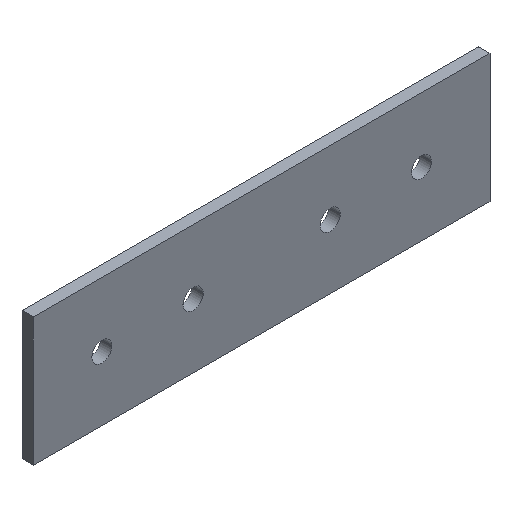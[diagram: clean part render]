
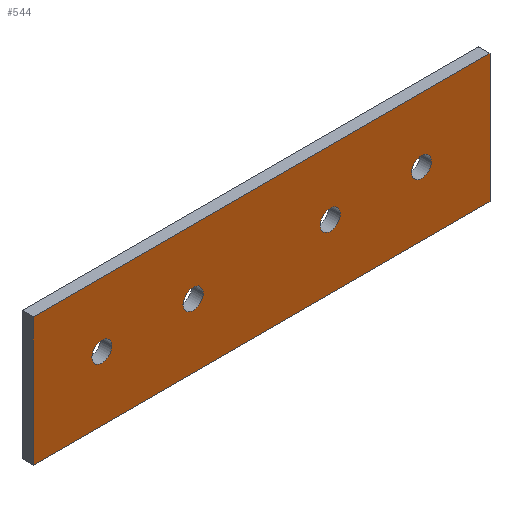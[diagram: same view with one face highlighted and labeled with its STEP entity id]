
A CAD part, isometric view. The second image highlights one B-rep face of the part: STEP entity #544.
In plain terms, the highlighted planar face has unit normal (0, -1, 0).
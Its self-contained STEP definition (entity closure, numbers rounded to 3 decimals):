
#297=DIRECTION('',(0.,0.,1.));
#298=VECTOR('',#297,22.5);
#299=CARTESIAN_POINT('',(-40.,0.,-11.25));
#300=LINE('',#299,#298);
#301=DIRECTION('',(1.,0.,0.));
#302=VECTOR('',#301,80.);
#303=CARTESIAN_POINT('',(-40.,0.,11.25));
#304=LINE('',#303,#302);
#305=DIRECTION('',(0.,0.,-1.));
#306=VECTOR('',#305,22.5);
#307=CARTESIAN_POINT('',(40.,0.,11.25));
#308=LINE('',#307,#306);
#309=DIRECTION('',(-1.,0.,0.));
#310=VECTOR('',#309,80.);
#311=CARTESIAN_POINT('',(40.,0.,-11.25));
#312=LINE('',#311,#310);
#313=CARTESIAN_POINT('',(12.,0.,0.));
#314=DIRECTION('',(0.,1.,0.));
#315=DIRECTION('',(1.,0.,0.));
#316=AXIS2_PLACEMENT_3D('',#313,#314,#315);
#318=CARTESIAN_POINT('',(12.,0.,0.));
#319=DIRECTION('',(0.,1.,0.));
#320=DIRECTION('',(-1.,0.,0.));
#321=AXIS2_PLACEMENT_3D('',#318,#319,#320);
#323=CARTESIAN_POINT('',(28.,0.,0.));
#324=DIRECTION('',(0.,1.,0.));
#325=DIRECTION('',(1.,0.,0.));
#326=AXIS2_PLACEMENT_3D('',#323,#324,#325);
#328=CARTESIAN_POINT('',(28.,0.,0.));
#329=DIRECTION('',(0.,1.,0.));
#330=DIRECTION('',(-1.,0.,0.));
#331=AXIS2_PLACEMENT_3D('',#328,#329,#330);
#333=CARTESIAN_POINT('',(-12.,0.,0.));
#334=DIRECTION('',(0.,1.,0.));
#335=DIRECTION('',(1.,0.,0.));
#336=AXIS2_PLACEMENT_3D('',#333,#334,#335);
#338=CARTESIAN_POINT('',(-12.,0.,0.));
#339=DIRECTION('',(0.,1.,0.));
#340=DIRECTION('',(-1.,0.,0.));
#341=AXIS2_PLACEMENT_3D('',#338,#339,#340);
#343=CARTESIAN_POINT('',(-28.,0.,0.));
#344=DIRECTION('',(0.,1.,0.));
#345=DIRECTION('',(1.,0.,0.));
#346=AXIS2_PLACEMENT_3D('',#343,#344,#345);
#348=CARTESIAN_POINT('',(-28.,0.,0.));
#349=DIRECTION('',(0.,1.,0.));
#350=DIRECTION('',(-1.,0.,0.));
#351=AXIS2_PLACEMENT_3D('',#348,#349,#350);
#457=CARTESIAN_POINT('',(-40.,0.,-11.25));
#458=CARTESIAN_POINT('',(-40.,0.,11.25));
#459=VERTEX_POINT('',#457);
#460=VERTEX_POINT('',#458);
#461=CARTESIAN_POINT('',(40.,0.,11.25));
#462=VERTEX_POINT('',#461);
#463=CARTESIAN_POINT('',(40.,0.,-11.25));
#464=VERTEX_POINT('',#463);
#473=CARTESIAN_POINT('',(13.75,0.,0.));
#474=CARTESIAN_POINT('',(10.25,0.,0.));
#475=VERTEX_POINT('',#473);
#476=VERTEX_POINT('',#474);
#477=CARTESIAN_POINT('',(29.75,0.,0.));
#478=CARTESIAN_POINT('',(26.25,0.,0.));
#479=VERTEX_POINT('',#477);
#480=VERTEX_POINT('',#478);
#481=CARTESIAN_POINT('',(-10.25,0.,0.));
#482=CARTESIAN_POINT('',(-13.75,0.,0.));
#483=VERTEX_POINT('',#481);
#484=VERTEX_POINT('',#482);
#485=CARTESIAN_POINT('',(-26.25,0.,0.));
#486=CARTESIAN_POINT('',(-29.75,0.,0.));
#487=VERTEX_POINT('',#485);
#488=VERTEX_POINT('',#486);
#505=CARTESIAN_POINT('',(0.,0.,0.));
#506=DIRECTION('',(0.,1.,0.));
#507=DIRECTION('',(1.,0.,0.));
#508=AXIS2_PLACEMENT_3D('',#505,#506,#507);
#509=PLANE('',#508);
#511=ORIENTED_EDGE('',*,*,#510,.T.);
#513=ORIENTED_EDGE('',*,*,#512,.T.);
#515=ORIENTED_EDGE('',*,*,#514,.T.);
#517=ORIENTED_EDGE('',*,*,#516,.T.);
#518=EDGE_LOOP('',(#511,#513,#515,#517));
#519=FACE_OUTER_BOUND('',#518,.F.);
#521=ORIENTED_EDGE('',*,*,#520,.F.);
#523=ORIENTED_EDGE('',*,*,#522,.F.);
#524=EDGE_LOOP('',(#521,#523));
#525=FACE_BOUND('',#524,.F.);
#527=ORIENTED_EDGE('',*,*,#526,.F.);
#529=ORIENTED_EDGE('',*,*,#528,.F.);
#530=EDGE_LOOP('',(#527,#529));
#531=FACE_BOUND('',#530,.F.);
#533=ORIENTED_EDGE('',*,*,#532,.F.);
#535=ORIENTED_EDGE('',*,*,#534,.F.);
#536=EDGE_LOOP('',(#533,#535));
#537=FACE_BOUND('',#536,.F.);
#539=ORIENTED_EDGE('',*,*,#538,.F.);
#541=ORIENTED_EDGE('',*,*,#540,.F.);
#542=EDGE_LOOP('',(#539,#541));
#543=FACE_BOUND('',#542,.F.);
#317=CIRCLE('',#316,1.75);
#322=CIRCLE('',#321,1.75);
#327=CIRCLE('',#326,1.75);
#332=CIRCLE('',#331,1.75);
#337=CIRCLE('',#336,1.75);
#342=CIRCLE('',#341,1.75);
#347=CIRCLE('',#346,1.75);
#352=CIRCLE('',#351,1.75);
#510=EDGE_CURVE('',#459,#460,#300,.T.);
#512=EDGE_CURVE('',#460,#462,#304,.T.);
#514=EDGE_CURVE('',#462,#464,#308,.T.);
#516=EDGE_CURVE('',#464,#459,#312,.T.);
#520=EDGE_CURVE('',#475,#476,#317,.T.);
#522=EDGE_CURVE('',#476,#475,#322,.T.);
#526=EDGE_CURVE('',#479,#480,#327,.T.);
#528=EDGE_CURVE('',#480,#479,#332,.T.);
#532=EDGE_CURVE('',#483,#484,#337,.T.);
#534=EDGE_CURVE('',#484,#483,#342,.T.);
#538=EDGE_CURVE('',#487,#488,#347,.T.);
#540=EDGE_CURVE('',#488,#487,#352,.T.);
#544=ADVANCED_FACE('',(#519,#525,#531,#537,#543),#509,.F.);
